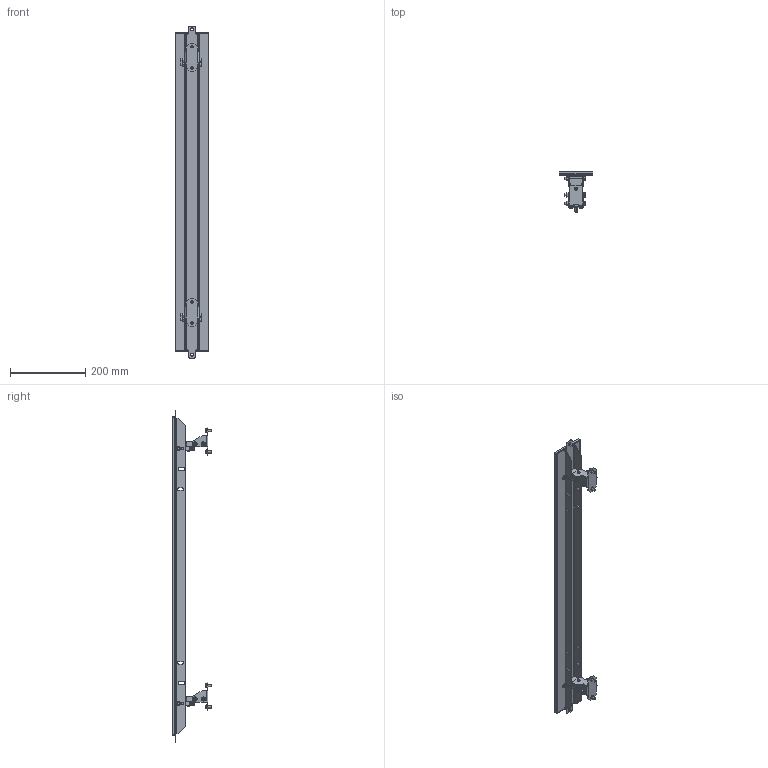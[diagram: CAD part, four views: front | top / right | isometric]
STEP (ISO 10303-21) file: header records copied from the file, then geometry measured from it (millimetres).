
FILE_DESCRIPTION((''),'2;1');
FILE_NAME('2009725_ASM','2012-08-09T',('rink'),(''),'PRO/ENGINEER BY PARAMETRIC TECHNOLOGY CORPORATION, 2011040','PRO/ENGINEER BY PARAMETRIC TECHNOLOGY CORPORATION, 2011040','');
FILE_SCHEMA(('AUTOMOTIVE_DESIGN_CC2 { 1 2 10303 214 -1 1 5 2 }'));
Length unit declared in the file: millimetre
Products named in the file (8): 2009705; 2009706; 2009707; 2009708_ASM; 2009377; 2009378; 2009379_ASM; 2009725_ASM
Assembly tree (8 placements, depth 3):
  2009725_ASM
    2009708_ASM
      2009705
      2009706
      2009707
    2009379_ASM  x2
      2009377
      2009378
Bounding box: 89 x 105.2 x 880 mm (x, y, z)
Volume: 476790.9 mm3; surface area: 521009 mm2
Topology: 3 solids, 95 shells, 743 faces, 2057 edges, 1438 vertices
Faces by surface type: plane 415, cone 136, cylinder 120, extrusion 40, bspline 24, sphere 8
Entity records: 24063 total; most frequent: CARTESIAN_POINT 6110, DIRECTION 2283, ORIENTED_EDGE 2254, PRESENTATION_STYLE_ASSIGNMENT 1637, STYLED_ITEM 1353, CURVE_STYLE 1306, EDGE_CURVE 1238, VERTEX_POINT 826
